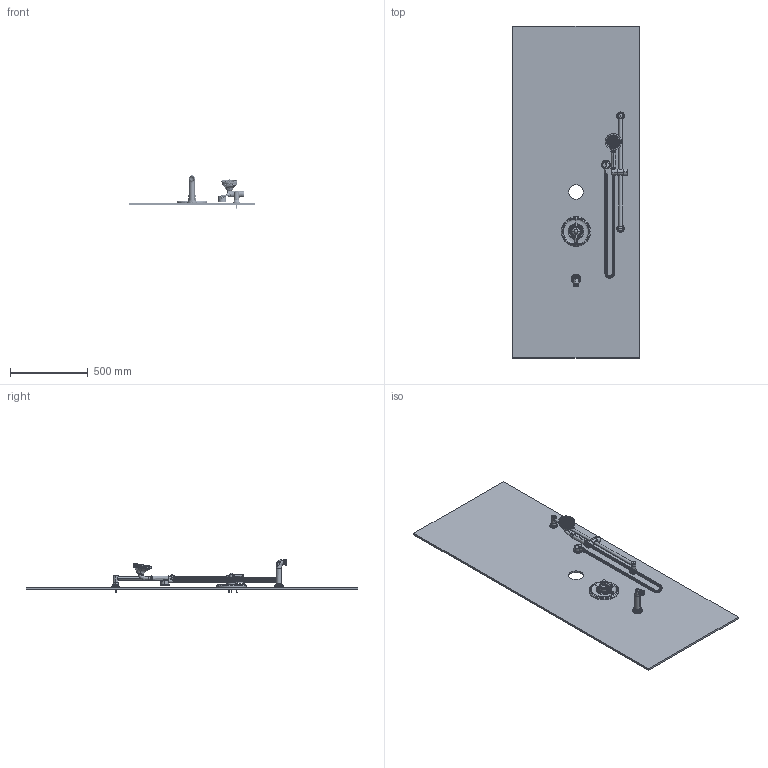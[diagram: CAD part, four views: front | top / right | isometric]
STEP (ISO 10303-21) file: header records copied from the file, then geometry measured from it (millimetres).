
FILE_DESCRIPTION (( 'STEP AP214' ), '1' );
FILE_NAME ('S5894TRMTC.STEP', '2025-11-20T12:57:20', ( '' ), ( '' ), 'SwSTEP 2.0', 'SolidWorks 2023', '' );
FILE_SCHEMA (( 'AUTOMOTIVE_DESIGN' ));
Products named in the file (1): S5894TRMTC
Bounding box: 812.8 x 2133.6 x 215.49 mm (x, y, z)
Surface area: 3852222.5 mm2 (no closed solid volume)
Topology: 0 solids, 168 shells, 748 faces, 2753 edges, 2055 vertices
Faces by surface type: bspline 212, cylinder 177, torus 144, cone 138, plane 68, sphere 9
Entity records: 157142 total; most frequent: CARTESIAN_POINT 137040, ORIENTED_EDGE 3859, DIRECTION 3674, EDGE_CURVE 2741, VERTEX_POINT 2052, AXIS2_PLACEMENT_3D 1589, CIRCLE 1052, B_SPLINE_CURVE_WITH_KNOTS 900
